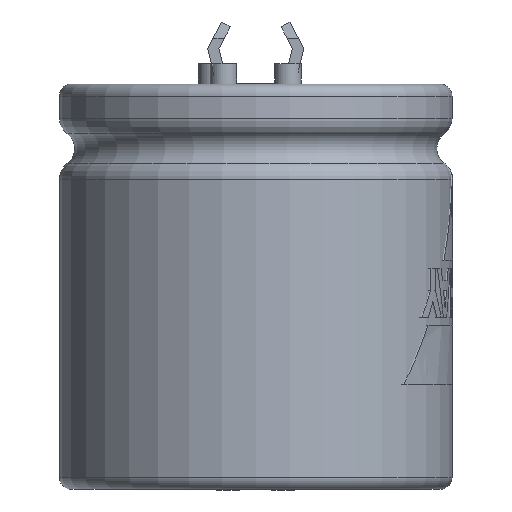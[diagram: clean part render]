
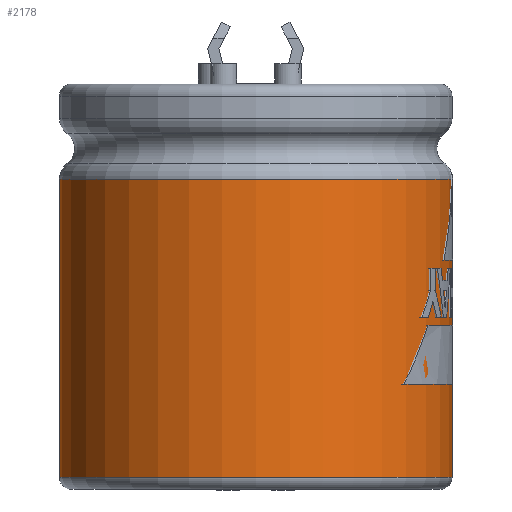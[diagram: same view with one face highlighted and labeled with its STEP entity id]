
A CAD part, left-side view. The second image highlights one B-rep face of the part: STEP entity #2178.
In plain terms, the highlighted cylindrical face has radius 15.5 mm (diameter 31 mm), a full revolution.
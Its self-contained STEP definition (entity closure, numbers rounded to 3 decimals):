
#2110 = TOROIDAL_SURFACE('',#2111,14.,1.5);
#2111 = AXIS2_PLACEMENT_3D('',#2112,#2113,#2114);
#2112 = CARTESIAN_POINT('',(0.,0.,-6.55));
#2113 = DIRECTION('',(0.,0.,1.));
#2114 = DIRECTION('',(1.,0.,0.));
#2126 = EDGE_CURVE('',#2127,#2127,#2129,.T.);
#2127 = VERTEX_POINT('',#2128);
#2128 = CARTESIAN_POINT('',(15.5,0.,-6.55));
#2129 = SURFACE_CURVE('',#2130,(#2135,#2142),.PCURVE_S1.);
#2130 = CIRCLE('',#2131,15.5);
#2131 = AXIS2_PLACEMENT_3D('',#2132,#2133,#2134);
#2132 = CARTESIAN_POINT('',(0.,0.,-6.55));
#2133 = DIRECTION('',(0.,0.,1.));
#2134 = DIRECTION('',(1.,0.,0.));
#2135 = PCURVE('',#2110,#2136);
#2136 = DEFINITIONAL_REPRESENTATION('',(#2137),#2141);
#2137 = LINE('',#2138,#2139);
#2138 = CARTESIAN_POINT('',(0.,6.283));
#2139 = VECTOR('',#2140,1.);
#2140 = DIRECTION('',(1.,0.));
#2141 = ( GEOMETRIC_REPRESENTATION_CONTEXT(2) 
PARAMETRIC_REPRESENTATION_CONTEXT() REPRESENTATION_CONTEXT('2D SPACE',''
  ) );
#2142 = PCURVE('',#2143,#2148);
#2143 = CYLINDRICAL_SURFACE('',#2144,15.5);
#2144 = AXIS2_PLACEMENT_3D('',#2145,#2146,#2147);
#2145 = CARTESIAN_POINT('',(0.,0.,-30.1));
#2146 = DIRECTION('',(0.,0.,1.));
#2147 = DIRECTION('',(1.,0.,0.));
#2148 = DEFINITIONAL_REPRESENTATION('',(#2149),#2153);
#2149 = LINE('',#2150,#2151);
#2150 = CARTESIAN_POINT('',(0.,23.55));
#2151 = VECTOR('',#2152,1.);
#2152 = DIRECTION('',(1.,0.));
#2153 = ( GEOMETRIC_REPRESENTATION_CONTEXT(2) 
PARAMETRIC_REPRESENTATION_CONTEXT() REPRESENTATION_CONTEXT('2D SPACE',''
  ) );
#2178 = ADVANCED_FACE('',(#2179),#2143,.T.);
#2179 = FACE_BOUND('',#2180,.T.);
#2180 = EDGE_LOOP('',(#2181,#2210,#2231,#2232));
#2181 = ORIENTED_EDGE('',*,*,#2182,.T.);
#2182 = EDGE_CURVE('',#2183,#2183,#2185,.T.);
#2183 = VERTEX_POINT('',#2184);
#2184 = CARTESIAN_POINT('',(15.5,0.,-30.1));
#2185 = SURFACE_CURVE('',#2186,(#2191,#2198),.PCURVE_S1.);
#2186 = CIRCLE('',#2187,15.5);
#2187 = AXIS2_PLACEMENT_3D('',#2188,#2189,#2190);
#2188 = CARTESIAN_POINT('',(0.,0.,-30.1));
#2189 = DIRECTION('',(0.,0.,1.));
#2190 = DIRECTION('',(1.,0.,0.));
#2191 = PCURVE('',#2143,#2192);
#2192 = DEFINITIONAL_REPRESENTATION('',(#2193),#2197);
#2193 = LINE('',#2194,#2195);
#2194 = CARTESIAN_POINT('',(0.,0.));
#2195 = VECTOR('',#2196,1.);
#2196 = DIRECTION('',(1.,0.));
#2197 = ( GEOMETRIC_REPRESENTATION_CONTEXT(2) 
PARAMETRIC_REPRESENTATION_CONTEXT() REPRESENTATION_CONTEXT('2D SPACE',''
  ) );
#2198 = PCURVE('',#2199,#2204);
#2199 = TOROIDAL_SURFACE('',#2200,14.55,0.95);
#2200 = AXIS2_PLACEMENT_3D('',#2201,#2202,#2203);
#2201 = CARTESIAN_POINT('',(0.,0.,-30.1));
#2202 = DIRECTION('',(0.,0.,1.));
#2203 = DIRECTION('',(1.,0.,0.));
#2204 = DEFINITIONAL_REPRESENTATION('',(#2205),#2209);
#2205 = LINE('',#2206,#2207);
#2206 = CARTESIAN_POINT('',(0.,6.283));
#2207 = VECTOR('',#2208,1.);
#2208 = DIRECTION('',(1.,0.));
#2209 = ( GEOMETRIC_REPRESENTATION_CONTEXT(2) 
PARAMETRIC_REPRESENTATION_CONTEXT() REPRESENTATION_CONTEXT('2D SPACE',''
  ) );
#2210 = ORIENTED_EDGE('',*,*,#2211,.T.);
#2211 = EDGE_CURVE('',#2183,#2127,#2212,.T.);
#2212 = SEAM_CURVE('',#2213,(#2217,#2224),.PCURVE_S1.);
#2213 = LINE('',#2214,#2215);
#2214 = CARTESIAN_POINT('',(15.5,0.,-30.1));
#2215 = VECTOR('',#2216,1.);
#2216 = DIRECTION('',(0.,0.,1.));
#2217 = PCURVE('',#2143,#2218);
#2218 = DEFINITIONAL_REPRESENTATION('',(#2219),#2223);
#2219 = LINE('',#2220,#2221);
#2220 = CARTESIAN_POINT('',(0.,0.));
#2221 = VECTOR('',#2222,1.);
#2222 = DIRECTION('',(0.,1.));
#2223 = ( GEOMETRIC_REPRESENTATION_CONTEXT(2) 
PARAMETRIC_REPRESENTATION_CONTEXT() REPRESENTATION_CONTEXT('2D SPACE',''
  ) );
#2224 = PCURVE('',#2143,#2225);
#2225 = DEFINITIONAL_REPRESENTATION('',(#2226),#2230);
#2226 = LINE('',#2227,#2228);
#2227 = CARTESIAN_POINT('',(6.283,0.));
#2228 = VECTOR('',#2229,1.);
#2229 = DIRECTION('',(0.,1.));
#2230 = ( GEOMETRIC_REPRESENTATION_CONTEXT(2) 
PARAMETRIC_REPRESENTATION_CONTEXT() REPRESENTATION_CONTEXT('2D SPACE',''
  ) );
#2231 = ORIENTED_EDGE('',*,*,#2126,.F.);
#2232 = ORIENTED_EDGE('',*,*,#2211,.F.);
